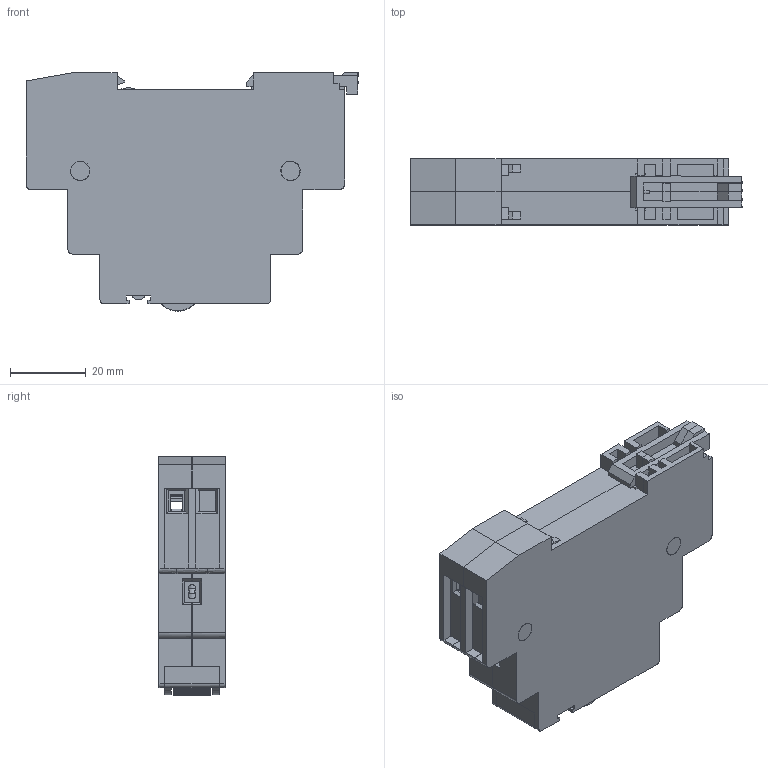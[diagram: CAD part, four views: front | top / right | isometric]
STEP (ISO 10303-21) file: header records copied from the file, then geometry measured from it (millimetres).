
FILE_DESCRIPTION(('STEP AP214'),'2;1');
FILE_NAME('2221.stp','2020-10-09T11:09:12',(''),(''),'2007.1.106','THINKDESIGN','');
FILE_SCHEMA(('AUTOMOTIVE_DESIGN'));
Length unit declared in the file: millimetre
Products named in the file (1): top
Bounding box: 87.5 x 17.4 x 62.8 mm (x, y, z)
Surface area: 17521.8 mm2 (no closed solid volume)
Topology: 0 solids, 0 shells, 664 faces, 3692 edges, 3696 vertices
Faces by surface type: bspline 664
Entity records: 24361 total; most frequent: CARTESIAN_POINT 14729, COMPOSITE_CURVE_SEGMENT 3680, QUASI_UNIFORM_CURVE 2856, STYLED_ITEM 672, OUTER_BOUNDARY_CURVE 664, CURVE_BOUNDED_SURFACE 664, B_SPLINE_SURFACE_WITH_KNOTS 565, B_SPLINE_CURVE_WITH_KNOTS 462
